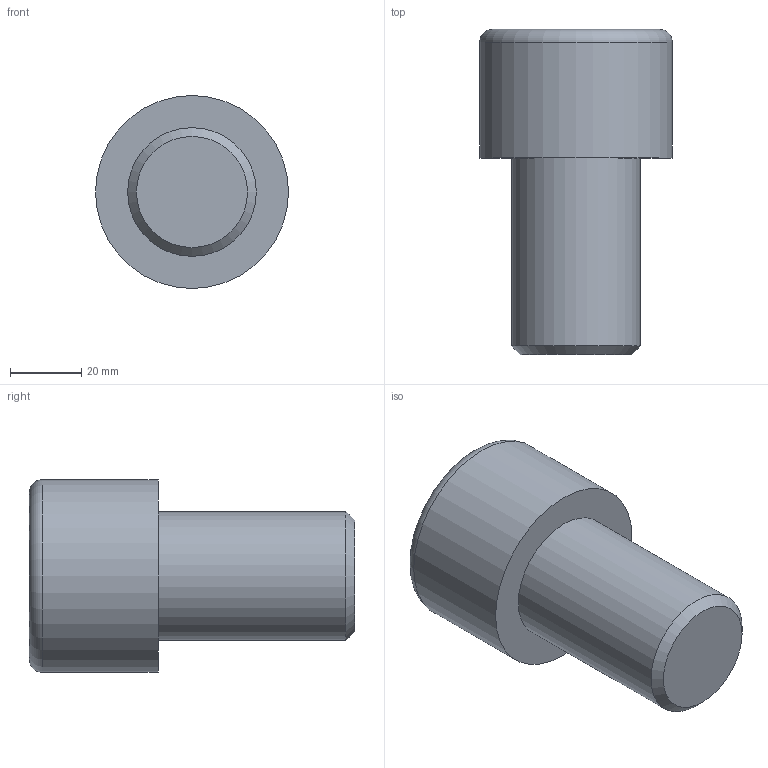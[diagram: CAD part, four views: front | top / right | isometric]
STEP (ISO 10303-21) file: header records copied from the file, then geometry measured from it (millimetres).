
FILE_DESCRIPTION(/* description */ (''),/* implementation_level */ '2;1');
FILE_NAME(/* name */ 'C:\Users\D\Documents\Inventor\各種小物\JIS\JIS B 1176 六角穴付きボルト\M36x55.stp',/* time_stamp */ '2022-05-09T19:04:16+09:00',/* author */ ('D'),/* organization */ (''),/* preprocessor_version */ 'ST-DEVELOPER v18',/* originating_system */ 'Autodesk Inventor 2020',/* authorisation */ '');
FILE_SCHEMA (('AUTOMOTIVE_DESIGN { 1 0 10303 214 3 1 1 }'));
Length unit declared in the file: millimetre
Products named in the file (1): M1.6x2.5
Bounding box: 54 x 91 x 54 mm (x, y, z)
Volume: 123426.6 mm3; surface area: 18418.9 mm2
Topology: 1 solids, 1 shells, 14 faces, 33 edges, 22 vertices
Faces by surface type: plane 9, cone 2, cylinder 2, torus 1
Full cylindrical faces by diameter (mm): 36 x1, 54 x1
Entity records: 435 total; most frequent: CARTESIAN_POINT 83, ORIENTED_EDGE 64, DIRECTION 64, EDGE_CURVE 32, AXIS2_PLACEMENT_3D 24, VERTEX_POINT 22, EDGE_LOOP 16, LINE 16
